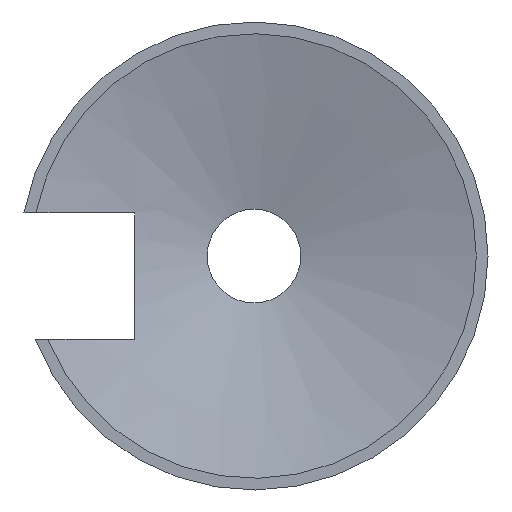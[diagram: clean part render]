
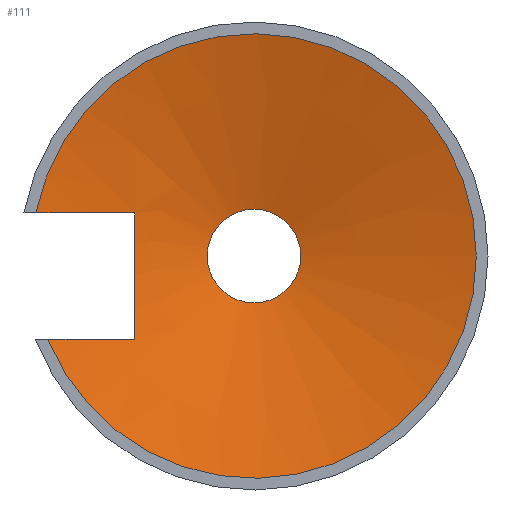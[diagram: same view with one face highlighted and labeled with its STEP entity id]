
A CAD part, top view. The second image highlights one B-rep face of the part: STEP entity #111.
In plain terms, the highlighted conical face has half-angle 75.069 degrees and reference radius 47.5 mm.
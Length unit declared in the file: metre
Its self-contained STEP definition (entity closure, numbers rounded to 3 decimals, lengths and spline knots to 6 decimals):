
#15=B_SPLINE_CURVE_WITH_KNOTS('',3,(#200,#201,#202,#203),.UNSPECIFIED.,
 .F.,.F.,(4,4),(0.028484,0.047548),.UNSPECIFIED.);
#16=B_SPLINE_CURVE_WITH_KNOTS('',3,(#205,#206,#207,#208),.UNSPECIFIED.,
 .F.,.F.,(4,4),(0.025924,0.04772),.UNSPECIFIED.);
#17=B_SPLINE_CURVE_WITH_KNOTS('',3,(#210,#211,#212,#213,#214,#215),
 .UNSPECIFIED.,.F.,.F.,(4,1,1,4),(0.029296,0.042744,
0.049468,0.056192),.UNSPECIFIED.);
#19=CONICAL_SURFACE('',#134,0.0475,1.31);
#37=ORIENTED_EDGE('',*,*,#64,.T.);
#38=ORIENTED_EDGE('',*,*,#65,.F.);
#39=ORIENTED_EDGE('',*,*,#56,.F.);
#40=ORIENTED_EDGE('',*,*,#66,.T.);
#41=ORIENTED_EDGE('',*,*,#67,.F.);
#56=EDGE_CURVE('',#70,#71,#80,.F.);
#64=EDGE_CURVE('',#77,#77,#83,.F.);
#65=EDGE_CURVE('',#71,#78,#15,.T.);
#66=EDGE_CURVE('',#70,#79,#16,.T.);
#67=EDGE_CURVE('',#78,#79,#17,.T.);
#70=VERTEX_POINT('',#171);
#71=VERTEX_POINT('',#172);
#77=VERTEX_POINT('',#199);
#78=VERTEX_POINT('',#204);
#79=VERTEX_POINT('',#209);
#80=CIRCLE('',#130,0.0475);
#83=CIRCLE('',#135,0.01);
#87=EDGE_LOOP('',(#37));
#88=EDGE_LOOP('',(#38,#39,#40,#41));
#97=FACE_BOUND('',#87,.T.);
#98=FACE_BOUND('',#88,.T.);
#111=ADVANCED_FACE('',(#97,#98),#19,.F.);
#130=AXIS2_PLACEMENT_3D('',#170,#144,#145);
#134=AXIS2_PLACEMENT_3D('',#197,#154,#155);
#135=AXIS2_PLACEMENT_3D('',#198,#156,#157);
#144=DIRECTION('',(0.,0.,1.));
#145=DIRECTION('',(1.,0.,0.));
#154=DIRECTION('',(0.,0.,1.));
#155=DIRECTION('',(1.,0.,0.));
#156=DIRECTION('',(0.,0.,1.));
#157=DIRECTION('',(1.,0.,0.));
#170=CARTESIAN_POINT('',(0.011,0.008663,0.068));
#171=CARTESIAN_POINT('',(-0.035599,0.017869,0.068));
#172=CARTESIAN_POINT('',(-0.033048,-0.009114,0.068));
#197=CARTESIAN_POINT('',(0.011,0.008663,0.068));
#198=CARTESIAN_POINT('',(0.011,0.008663,0.058));
#199=CARTESIAN_POINT('',(0.021,0.008663,0.058));
#200=CARTESIAN_POINT('',(-0.033048,-0.009114,0.068));
#201=CARTESIAN_POINT('',(-0.026876,-0.009114,0.066474));
#202=CARTESIAN_POINT('',(-0.020697,-0.009114,0.064978));
#203=CARTESIAN_POINT('',(-0.01449,-0.009114,0.06362));
#204=CARTESIAN_POINT('',(-0.01449,-0.009114,0.06362));
#205=CARTESIAN_POINT('',(-0.035599,0.017869,0.068));
#206=CARTESIAN_POINT('',(-0.028569,0.017869,0.066161));
#207=CARTESIAN_POINT('',(-0.021537,0.017869,0.064328));
#208=CARTESIAN_POINT('',(-0.01449,0.017869,0.06256));
#209=CARTESIAN_POINT('',(-0.01449,0.017869,0.06256));
#210=CARTESIAN_POINT('',(-0.01449,-0.009114,0.06362));
#211=CARTESIAN_POINT('',(-0.01449,-0.004682,0.062944));
#212=CARTESIAN_POINT('',(-0.01449,0.002001,0.06218));
#213=CARTESIAN_POINT('',(-0.01449,0.011025,0.062078));
#214=CARTESIAN_POINT('',(-0.01449,0.015593,0.062354));
#215=CARTESIAN_POINT('',(-0.01449,0.017869,0.06256));
